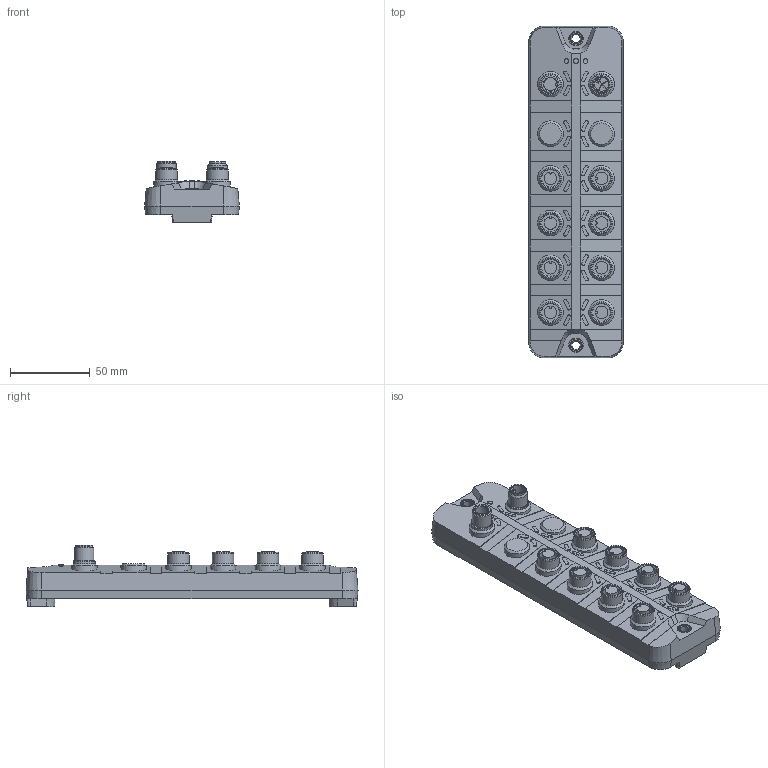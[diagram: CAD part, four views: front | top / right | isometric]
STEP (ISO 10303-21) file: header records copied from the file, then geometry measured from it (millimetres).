
FILE_DESCRIPTION( ( 'STEP AP203' ), '1' );
FILE_NAME( 'p:/temp/worker_690/temp/exporttempdir_5800_97_bYRhL/format_3/AL2605.stp', '2020-12-02T08:41:41', ( 'License CC BY-ND 4.0' ), ( 'CADENAS' ), ' ', 'PARTsolutions', ' ' );
FILE_SCHEMA( ( 'CONFIG_CONTROL_DESIGN' ) );
Length unit declared in the file: millimetre
Products named in the file (1): _AL2605
Bounding box: 59.3 x 208 x 38.25 mm (x, y, z)
Volume: 240821.2 mm3; surface area: 43720.3 mm2
Topology: 1 solids, 1 shells, 423 faces, 979 edges, 628 vertices
Faces by surface type: plane 189, cylinder 176, cone 58
Full cylindrical faces by diameter (mm): 1.55 x1, 3 x3, 5.3 x2, 8.3 x1, 8.808 x1, 10.5 x1, 10.85 x1, 10.917 x8, 12 x2, 12.1 x8, 13.5 x10, 16 x12
Entity records: 11613 total; most frequent: DIRECTION 2151, CARTESIAN_POINT 1949, ORIENTED_EDGE 1762, EDGE_CURVE 881, AXIS2_PLACEMENT_3D 850, VERTEX_POINT 620, EDGE_LOOP 587, FACE_OUTER_BOUND 473
